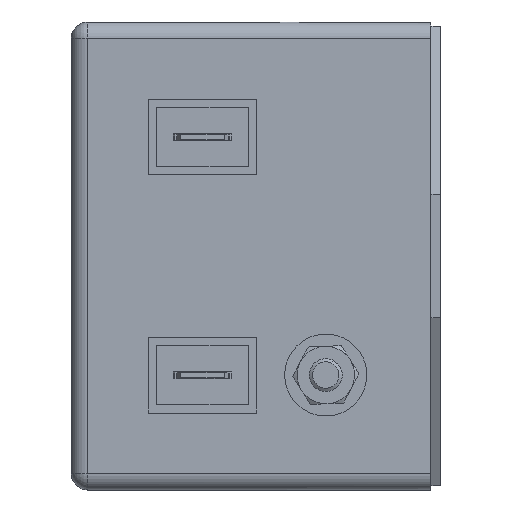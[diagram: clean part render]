
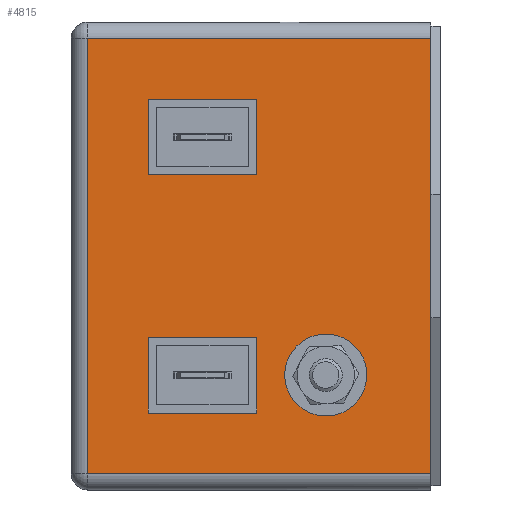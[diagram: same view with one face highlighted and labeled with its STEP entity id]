
A CAD part, left-side view. The second image highlights one B-rep face of the part: STEP entity #4815.
In plain terms, the highlighted planar face has unit normal (-1, 0, 0).
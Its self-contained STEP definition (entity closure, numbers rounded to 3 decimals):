
#50 = CARTESIAN_POINT ( 'NONE',  ( -93., 41.8, -55. ) ) ;
#140 = CIRCLE ( 'NONE', #670, 2. ) ;
#230 = VERTEX_POINT ( 'NONE', #3302 ) ;
#294 = EDGE_CURVE ( 'NONE', #4985, #5266, #7515, .T. ) ;
#339 = EDGE_CURVE ( 'NONE', #515, #4985, #3867, .T. ) ;
#371 = VERTEX_POINT ( 'NONE', #6979 ) ;
#507 = CARTESIAN_POINT ( 'NONE',  ( -93., 43.8, -57. ) ) ;
#515 = VERTEX_POINT ( 'NONE', #4231 ) ;
#558 = PLANE ( 'NONE',  #1124 ) ;
#670 = AXIS2_PLACEMENT_3D ( 'NONE', #3457, #2757, #3430 ) ;
#710 = LINE ( 'NONE', #6082, #4369 ) ;
#800 = DIRECTION ( 'NONE',  ( 0., 0., -1. ) ) ;
#807 = EDGE_LOOP ( 'NONE', ( #4343, #1837 ) ) ;
#841 = CARTESIAN_POINT ( 'NONE',  ( -93., 34.375, -57. ) ) ;
#993 = EDGE_LOOP ( 'NONE', ( #3216, #1840, #6492, #2420 ) ) ;
#1054 = ORIENTED_EDGE ( 'NONE', *, *, #2595, .T. ) ;
#1107 = AXIS2_PLACEMENT_3D ( 'NONE', #3532, #2953, #5844 ) ;
#1124 = AXIS2_PLACEMENT_3D ( 'NONE', #507, #4642, #5311 ) ;
#1188 = VERTEX_POINT ( 'NONE', #1619 ) ;
#1212 = LINE ( 'NONE', #5854, #3918 ) ;
#1271 = VERTEX_POINT ( 'NONE', #7659 ) ;
#1272 = VERTEX_POINT ( 'NONE', #1700 ) ;
#1346 = LINE ( 'NONE', #4846, #7315 ) ;
#1420 = VECTOR ( 'NONE', #800, 1000. ) ;
#1551 = CARTESIAN_POINT ( 'NONE',  ( -93., 41.8, -2. ) ) ;
#1619 = CARTESIAN_POINT ( 'NONE',  ( -93., 12.8, -41. ) ) ;
#1647 = EDGE_LOOP ( 'NONE', ( #6794, #3483, #1054, #3245 ) ) ;
#1700 = CARTESIAN_POINT ( 'NONE',  ( -93., 0., -2. ) ) ;
#1717 = EDGE_CURVE ( 'NONE', #5266, #3472, #5253, .T. ) ;
#1837 = ORIENTED_EDGE ( 'NONE', *, *, #7459, .T. ) ;
#1840 = ORIENTED_EDGE ( 'NONE', *, *, #4458, .T. ) ;
#1869 = CARTESIAN_POINT ( 'NONE',  ( -93., 12.8, -45. ) ) ;
#1968 = DIRECTION ( 'NONE',  ( 0., 1., 0. ) ) ;
#2054 = CARTESIAN_POINT ( 'NONE',  ( -93., 43.8, -9.425 ) ) ;
#2062 = DIRECTION ( 'NONE',  ( 0., 0., 1. ) ) ;
#2158 = FACE_OUTER_BOUND ( 'NONE', #993, .T. ) ;
#2359 = EDGE_CURVE ( 'NONE', #371, #1272, #1346, .T. ) ;
#2420 = ORIENTED_EDGE ( 'NONE', *, *, #3211, .T. ) ;
#2595 = EDGE_CURVE ( 'NONE', #6546, #7333, #4049, .T. ) ;
#2649 = CARTESIAN_POINT ( 'NONE',  ( -93., 21.225, -47.575 ) ) ;
#2757 = DIRECTION ( 'NONE',  ( 1., 0., 0. ) ) ;
#2952 = ORIENTED_EDGE ( 'NONE', *, *, #1717, .T. ) ;
#2953 = DIRECTION ( 'NONE',  ( 1., 0., 0. ) ) ;
#3070 = EDGE_CURVE ( 'NONE', #7714, #1188, #7586, .T. ) ;
#3121 = VECTOR ( 'NONE', #5130, 1000. ) ;
#3187 = VECTOR ( 'NONE', #4411, 1000. ) ;
#3211 = EDGE_CURVE ( 'NONE', #1272, #6087, #3570, .T. ) ;
#3216 = ORIENTED_EDGE ( 'NONE', *, *, #4500, .T. ) ;
#3221 = CARTESIAN_POINT ( 'NONE',  ( -93., 34.375, -9.425 ) ) ;
#3233 = CARTESIAN_POINT ( 'NONE',  ( -93., 41.8, -57. ) ) ;
#3245 = ORIENTED_EDGE ( 'NONE', *, *, #7151, .T. ) ;
#3302 = CARTESIAN_POINT ( 'NONE',  ( -93., 34.375, -47.575 ) ) ;
#3430 = DIRECTION ( 'NONE',  ( 0., 0., -1. ) ) ;
#3457 = CARTESIAN_POINT ( 'NONE',  ( -93., 12.8, -43. ) ) ;
#3472 = VERTEX_POINT ( 'NONE', #5634 ) ;
#3483 = ORIENTED_EDGE ( 'NONE', *, *, #5498, .T. ) ;
#3532 = CARTESIAN_POINT ( 'NONE',  ( -93., 12.8, -43. ) ) ;
#3542 = VECTOR ( 'NONE', #6081, 1000. ) ;
#3570 = LINE ( 'NONE', #3699, #6362 ) ;
#3699 = CARTESIAN_POINT ( 'NONE',  ( -93., 43.8, -2. ) ) ;
#3852 = VECTOR ( 'NONE', #5712, 1000. ) ;
#3867 = LINE ( 'NONE', #5805, #6565 ) ;
#3918 = VECTOR ( 'NONE', #6474, 1000. ) ;
#4000 = EDGE_CURVE ( 'NONE', #230, #1271, #7475, .T. ) ;
#4049 = LINE ( 'NONE', #5133, #3852 ) ;
#4198 = FACE_BOUND ( 'NONE', #1647, .T. ) ;
#4231 = CARTESIAN_POINT ( 'NONE',  ( -93., 21.225, -18.575 ) ) ;
#4309 = VECTOR ( 'NONE', #4379, 1000. ) ;
#4343 = ORIENTED_EDGE ( 'NONE', *, *, #3070, .T. ) ;
#4369 = VECTOR ( 'NONE', #5477, 1000. ) ;
#4379 = DIRECTION ( 'NONE',  ( 0., 0., 1. ) ) ;
#4403 = LINE ( 'NONE', #7375, #3187 ) ;
#4411 = DIRECTION ( 'NONE',  ( 0., -1., 0. ) ) ;
#4458 = EDGE_CURVE ( 'NONE', #5000, #371, #4403, .T. ) ;
#4477 = DIRECTION ( 'NONE',  ( 0., -1., 0. ) ) ;
#4482 = CARTESIAN_POINT ( 'NONE',  ( -93., 34.375, -57. ) ) ;
#4500 = EDGE_CURVE ( 'NONE', #6087, #5000, #7013, .T. ) ;
#4642 = DIRECTION ( 'NONE',  ( 1., 0., 0. ) ) ;
#4775 = ORIENTED_EDGE ( 'NONE', *, *, #294, .T. ) ;
#4815 = ADVANCED_FACE ( 'NONE', ( #6073, #4198, #7661, #2158 ), #558, .F. ) ;
#4846 = CARTESIAN_POINT ( 'NONE',  ( -93., 0., -57. ) ) ;
#4985 = VERTEX_POINT ( 'NONE', #6550 ) ;
#5000 = VERTEX_POINT ( 'NONE', #50 ) ;
#5130 = DIRECTION ( 'NONE',  ( 0., 0., 1. ) ) ;
#5133 = CARTESIAN_POINT ( 'NONE',  ( -93., 21.225, -57. ) ) ;
#5200 = DIRECTION ( 'NONE',  ( 0., 1., 0. ) ) ;
#5253 = LINE ( 'NONE', #2054, #6464 ) ;
#5266 = VERTEX_POINT ( 'NONE', #3221 ) ;
#5311 = DIRECTION ( 'NONE',  ( 0., 0., -1. ) ) ;
#5446 = CARTESIAN_POINT ( 'NONE',  ( -93., 21.225, -57. ) ) ;
#5477 = DIRECTION ( 'NONE',  ( 0., 1., 0. ) ) ;
#5498 = EDGE_CURVE ( 'NONE', #1271, #6546, #1212, .T. ) ;
#5582 = ORIENTED_EDGE ( 'NONE', *, *, #339, .T. ) ;
#5634 = CARTESIAN_POINT ( 'NONE',  ( -93., 21.225, -9.425 ) ) ;
#5689 = EDGE_LOOP ( 'NONE', ( #5582, #4775, #2952, #6299 ) ) ;
#5712 = DIRECTION ( 'NONE',  ( 0., 0., -1. ) ) ;
#5760 = EDGE_CURVE ( 'NONE', #3472, #515, #6518, .T. ) ;
#5805 = CARTESIAN_POINT ( 'NONE',  ( -93., 43.8, -18.575 ) ) ;
#5844 = DIRECTION ( 'NONE',  ( 0., 0., -1. ) ) ;
#5854 = CARTESIAN_POINT ( 'NONE',  ( -93., 43.8, -38.425 ) ) ;
#6073 = FACE_BOUND ( 'NONE', #807, .T. ) ;
#6081 = DIRECTION ( 'NONE',  ( 0., 0., -1. ) ) ;
#6082 = CARTESIAN_POINT ( 'NONE',  ( -93., 43.8, -47.575 ) ) ;
#6087 = VERTEX_POINT ( 'NONE', #1551 ) ;
#6299 = ORIENTED_EDGE ( 'NONE', *, *, #5760, .T. ) ;
#6362 = VECTOR ( 'NONE', #1968, 1000. ) ;
#6464 = VECTOR ( 'NONE', #4477, 1000. ) ;
#6474 = DIRECTION ( 'NONE',  ( 0., -1., 0. ) ) ;
#6492 = ORIENTED_EDGE ( 'NONE', *, *, #2359, .T. ) ;
#6518 = LINE ( 'NONE', #5446, #3542 ) ;
#6546 = VERTEX_POINT ( 'NONE', #6819 ) ;
#6550 = CARTESIAN_POINT ( 'NONE',  ( -93., 34.375, -18.575 ) ) ;
#6565 = VECTOR ( 'NONE', #5200, 1000. ) ;
#6794 = ORIENTED_EDGE ( 'NONE', *, *, #4000, .T. ) ;
#6819 = CARTESIAN_POINT ( 'NONE',  ( -93., 21.225, -38.425 ) ) ;
#6979 = CARTESIAN_POINT ( 'NONE',  ( -93., 0., -55. ) ) ;
#7013 = LINE ( 'NONE', #3233, #1420 ) ;
#7151 = EDGE_CURVE ( 'NONE', #7333, #230, #710, .T. ) ;
#7315 = VECTOR ( 'NONE', #2062, 1000. ) ;
#7333 = VERTEX_POINT ( 'NONE', #2649 ) ;
#7375 = CARTESIAN_POINT ( 'NONE',  ( -93., 43.8, -55. ) ) ;
#7459 = EDGE_CURVE ( 'NONE', #1188, #7714, #140, .T. ) ;
#7475 = LINE ( 'NONE', #841, #4309 ) ;
#7515 = LINE ( 'NONE', #4482, #3121 ) ;
#7586 = CIRCLE ( 'NONE', #1107, 2. ) ;
#7659 = CARTESIAN_POINT ( 'NONE',  ( -93., 34.375, -38.425 ) ) ;
#7661 = FACE_BOUND ( 'NONE', #5689, .T. ) ;
#7714 = VERTEX_POINT ( 'NONE', #1869 ) ;
